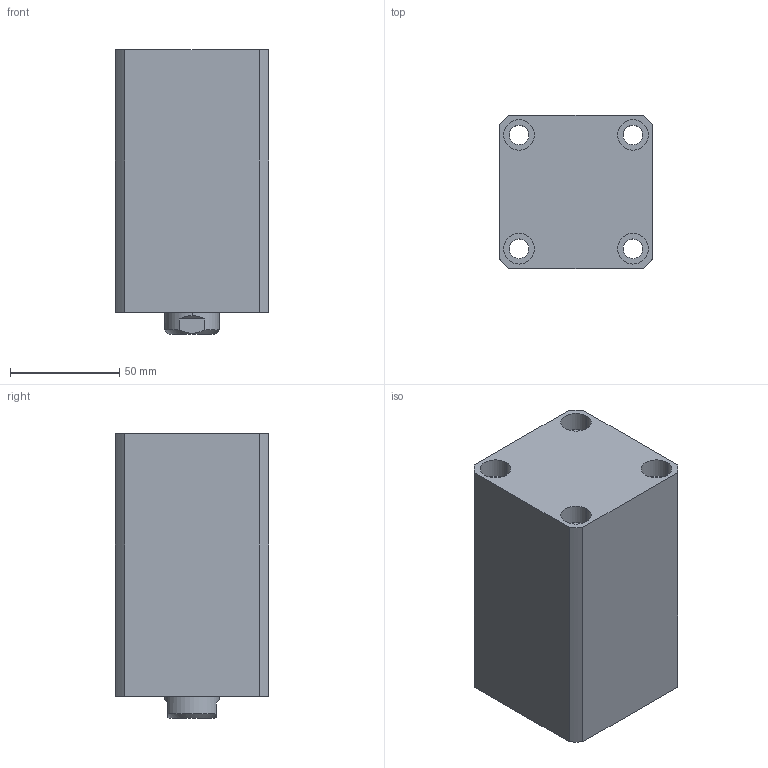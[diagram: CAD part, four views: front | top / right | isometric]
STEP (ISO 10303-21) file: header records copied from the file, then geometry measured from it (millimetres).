
FILE_DESCRIPTION (( 'STEP AP214' ), '1' );
FILE_NAME ('chtb-sd40x65n_asm.STEP', '2018-06-07T07:56:32', ( 'Windows' ), ( 'Microsoft' ), 'SwSTEP 2.0', 'SolidWorks 2015', '' );
FILE_SCHEMA (( 'AUTOMOTIVE_DESIGN' ));
Length unit declared in the file: millimetre
Products named in the file (4): CHTB-SD40QG; CHTB-SD40X65NHSG; CHTB-SD40X65NBT; chtb-sd40x65n_asm
Assembly tree (3 placements, depth 2):
  chtb-sd40x65n_asm
    CHTB-SD40X65NBT
    CHTB-SD40X65NHSG
    CHTB-SD40QG
Bounding box: 70 x 70 x 130 mm (x, y, z)
Volume: 488785.5 mm3; surface area: 97721.9 mm2
Topology: 3 solids, 3 shells, 157 faces, 401 edges, 266 vertices
Faces by surface type: cylinder 80, plane 36, torus 14, bspline 14, cone 13
Entity records: 9977 total; most frequent: CARTESIAN_POINT 6053, ORIENTED_EDGE 790, DIRECTION 768, EDGE_CURVE 395, AXIS2_PLACEMENT_3D 328, VERTEX_POINT 266, EDGE_LOOP 193, CIRCLE 179
